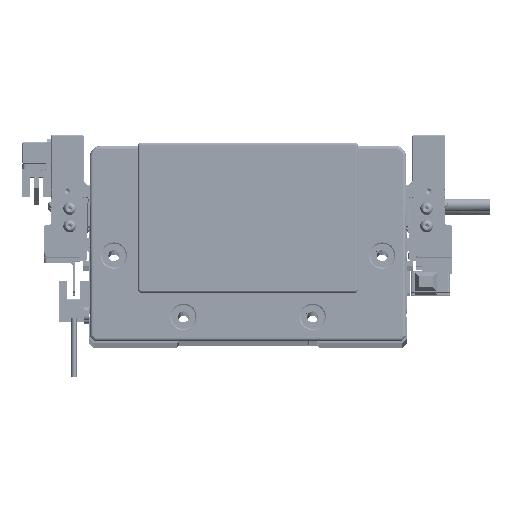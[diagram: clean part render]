
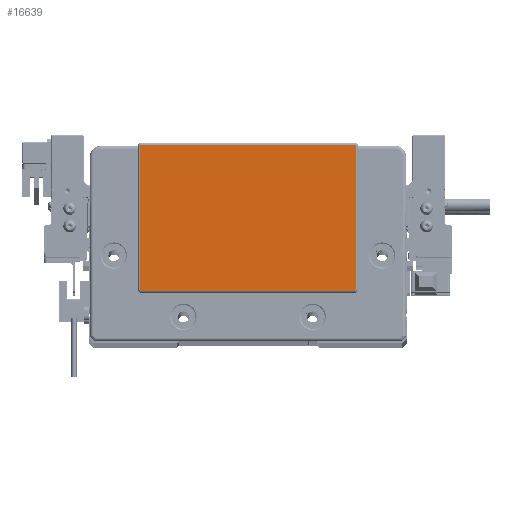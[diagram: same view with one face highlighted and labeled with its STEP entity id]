
A CAD part, top view. The second image highlights one B-rep face of the part: STEP entity #16639.
In plain terms, the highlighted planar face has unit normal (0, 0, 1) as drawn and (0, 0, -1) by its records, which use the part's own axes.
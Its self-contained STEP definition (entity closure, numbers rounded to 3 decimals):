
#138 = ORIENTED_EDGE ( 'NONE', *, *, #39363, .T. ) ;
#343 = ORIENTED_EDGE ( 'NONE', *, *, #75667, .T. ) ;
#1138 = CARTESIAN_POINT ( 'NONE',  ( -48.75, 43.8, -2. ) ) ;
#5513 = VECTOR ( 'NONE', #80964, 1000. ) ;
#6401 = PLANE ( 'NONE',  #65076 ) ;
#11835 = EDGE_CURVE ( 'NONE', #50130, #48797, #30301, .T. ) ;
#13244 = CARTESIAN_POINT ( 'NONE',  ( -48.75, -22.3, -2. ) ) ;
#14368 = LINE ( 'NONE', #56382, #5513 ) ;
#16639 = ADVANCED_FACE ( 'NONE', ( #91038 ), #6401, .T. ) ;
#17182 = VERTEX_POINT ( 'NONE', #59077 ) ;
#20138 = LINE ( 'NONE', #77468, #48213 ) ;
#23902 = VERTEX_POINT ( 'NONE', #99317 ) ;
#24130 = DIRECTION ( 'NONE',  ( -1., 0., 0. ) ) ;
#24133 = DIRECTION ( 'NONE',  ( -1., 0., 0. ) ) ;
#25757 = DIRECTION ( 'NONE',  ( 0., 0., -1. ) ) ;
#30301 = LINE ( 'NONE', #106180, #78748 ) ;
#31571 = VERTEX_POINT ( 'NONE', #68273 ) ;
#31786 = CARTESIAN_POINT ( 'NONE',  ( 48.75, -21.8, -2. ) ) ;
#35691 = ORIENTED_EDGE ( 'NONE', *, *, #64243, .T. ) ;
#36929 = AXIS2_PLACEMENT_3D ( 'NONE', #1138, #43222, #24130 ) ;
#37765 = DIRECTION ( 'NONE',  ( 0., 0., -1. ) ) ;
#39213 = DIRECTION ( 'NONE',  ( -1., 0., 0. ) ) ;
#39363 = EDGE_CURVE ( 'NONE', #66659, #23902, #101020, .T. ) ;
#39366 = CARTESIAN_POINT ( 'NONE',  ( 48.75, 43.8, -2. ) ) ;
#40297 = DIRECTION ( 'NONE',  ( 1., 0., 0. ) ) ;
#41687 = AXIS2_PLACEMENT_3D ( 'NONE', #39366, #37765, #71052 ) ;
#41799 = ORIENTED_EDGE ( 'NONE', *, *, #107063, .T. ) ;
#43093 = DIRECTION ( 'NONE',  ( 0., -1., 0. ) ) ;
#43222 = DIRECTION ( 'NONE',  ( 0., 0., -1. ) ) ;
#48213 = VECTOR ( 'NONE', #43093, 1000. ) ;
#48457 = ORIENTED_EDGE ( 'NONE', *, *, #79329, .T. ) ;
#48797 = VERTEX_POINT ( 'NONE', #59615 ) ;
#50130 = VERTEX_POINT ( 'NONE', #57892 ) ;
#50630 = CARTESIAN_POINT ( 'NONE',  ( 49.25, -21.8, -2. ) ) ;
#54869 = DIRECTION ( 'NONE',  ( 0., 1., 0. ) ) ;
#56382 = CARTESIAN_POINT ( 'NONE',  ( -48.75, -22.3, -2. ) ) ;
#57512 = CIRCLE ( 'NONE', #61042, 0.5 ) ;
#57892 = CARTESIAN_POINT ( 'NONE',  ( -49.25, -21.8, -2. ) ) ;
#58828 = CARTESIAN_POINT ( 'NONE',  ( 48.75, 44.3, -2. ) ) ;
#59077 = CARTESIAN_POINT ( 'NONE',  ( 48.75, -22.3, -2. ) ) ;
#59463 = VERTEX_POINT ( 'NONE', #13244 ) ;
#59615 = CARTESIAN_POINT ( 'NONE',  ( -49.25, 43.8, -2. ) ) ;
#59841 = DIRECTION ( 'NONE',  ( 0., 0., -1. ) ) ;
#61042 = AXIS2_PLACEMENT_3D ( 'NONE', #68035, #59841, #83346 ) ;
#62176 = EDGE_CURVE ( 'NONE', #59463, #50130, #57512, .T. ) ;
#64243 = EDGE_CURVE ( 'NONE', #17182, #59463, #14368, .T. ) ;
#65076 = AXIS2_PLACEMENT_3D ( 'NONE', #106891, #107975, #39213 ) ;
#65416 = VECTOR ( 'NONE', #40297, 1000. ) ;
#66659 = VERTEX_POINT ( 'NONE', #96238 ) ;
#67334 = ORIENTED_EDGE ( 'NONE', *, *, #62176, .T. ) ;
#68035 = CARTESIAN_POINT ( 'NONE',  ( -48.75, -21.8, -2. ) ) ;
#68273 = CARTESIAN_POINT ( 'NONE',  ( -48.75, 44.3, -2. ) ) ;
#68338 = EDGE_CURVE ( 'NONE', #23902, #104451, #20138, .T. ) ;
#71052 = DIRECTION ( 'NONE',  ( -1., 0., 0. ) ) ;
#71179 = ORIENTED_EDGE ( 'NONE', *, *, #68338, .T. ) ;
#73582 = LINE ( 'NONE', #58828, #65416 ) ;
#75667 = EDGE_CURVE ( 'NONE', #48797, #31571, #83962, .T. ) ;
#76548 = EDGE_LOOP ( 'NONE', ( #71179, #41799, #35691, #67334, #86833, #343, #48457, #138 ) ) ;
#77468 = CARTESIAN_POINT ( 'NONE',  ( 49.25, -21.8, -2. ) ) ;
#78748 = VECTOR ( 'NONE', #54869, 1000. ) ;
#79329 = EDGE_CURVE ( 'NONE', #31571, #66659, #73582, .T. ) ;
#80964 = DIRECTION ( 'NONE',  ( -1., 0., 0. ) ) ;
#83346 = DIRECTION ( 'NONE',  ( -1., 0., 0. ) ) ;
#83962 = CIRCLE ( 'NONE', #36929, 0.5 ) ;
#84244 = CIRCLE ( 'NONE', #103459, 0.5 ) ;
#86833 = ORIENTED_EDGE ( 'NONE', *, *, #11835, .T. ) ;
#91038 = FACE_OUTER_BOUND ( 'NONE', #76548, .T. ) ;
#96238 = CARTESIAN_POINT ( 'NONE',  ( 48.75, 44.3, -2. ) ) ;
#99317 = CARTESIAN_POINT ( 'NONE',  ( 49.25, 43.8, -2. ) ) ;
#101020 = CIRCLE ( 'NONE', #41687, 0.5 ) ;
#103459 = AXIS2_PLACEMENT_3D ( 'NONE', #31786, #25757, #24133 ) ;
#104451 = VERTEX_POINT ( 'NONE', #50630 ) ;
#106180 = CARTESIAN_POINT ( 'NONE',  ( -49.25, 43.8, -2. ) ) ;
#106891 = CARTESIAN_POINT ( 'NONE',  ( 0., 0., -2. ) ) ;
#107063 = EDGE_CURVE ( 'NONE', #104451, #17182, #84244, .T. ) ;
#107975 = DIRECTION ( 'NONE',  ( 0., 0., -1. ) ) ;
